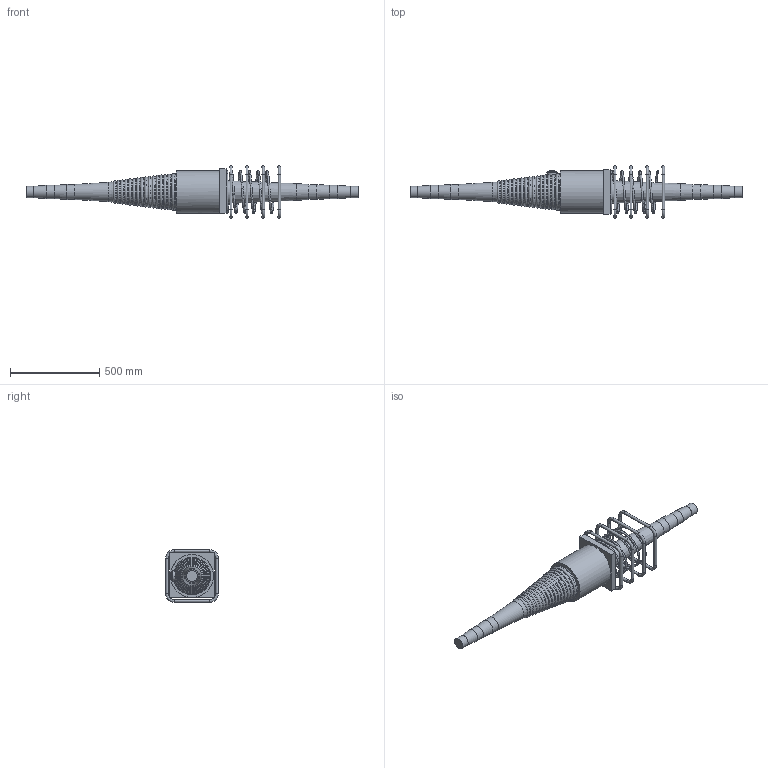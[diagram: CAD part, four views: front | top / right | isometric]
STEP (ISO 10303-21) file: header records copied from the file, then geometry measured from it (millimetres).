
FILE_DESCRIPTION(/* description */ (''),/* implementation_level */ '2;1');
FILE_NAME(/* name */ 'Z:\04 Publications\05 Give-out\BBR\6_3D_Models\BBR VT CONA CMI\BBR VT CONA CMI SP\00906\BBR VT CONA CMI SP 906_Coupler H Assembly_CS-34,28.stp',/* time_stamp */ '2017-05-05T15:14:19+02:00',/* author */ ('IP'),/* organization */ (''),/* preprocessor_version */ 'ST-DEVELOPER v16.1',/* originating_system */ 'Autodesk Inventor 2016',/* authorisation */ '');
FILE_SCHEMA (('AUTOMOTIVE_DESIGN { 1 0 10303 214 3 1 1 }'));
Length unit declared in the file: millimetre
Products named in the file (1): BBR VT CONA CMI SP 906_Coupler H Assembly_CS-34,28
Bounding box: 1859 x 295 x 295 mm (x, y, z)
Volume: 30087039.6 mm3; surface area: 1205132.1 mm2
Topology: 6 solids, 6 shells, 842 faces, 2183 edges, 1411 vertices
Faces by surface type: bspline 403, plane 248, cylinder 88, torus 75, cone 18, sphere 10
Full cylindrical faces by diameter (mm): 16 x16, 34 x1, 57 x1, 64 x2, 74 x2, 84 x2, 240 x1
Entity records: 37546 total; most frequent: CARTESIAN_POINT 19630, ORIENTED_EDGE 4144, DIRECTION 2523, EDGE_CURVE 2071, VERTEX_POINT 1407, EDGE_LOOP 1017, LINE 887, VECTOR 887
